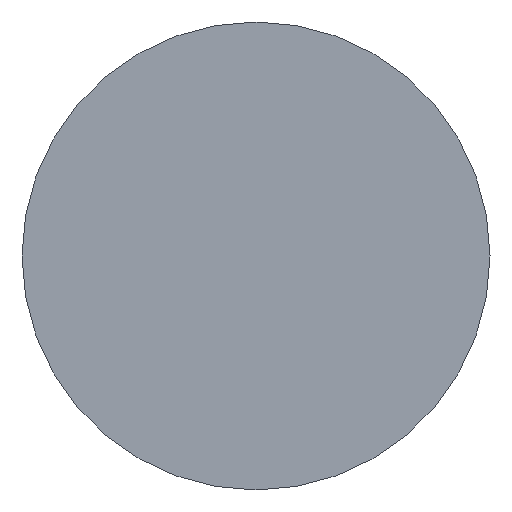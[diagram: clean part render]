
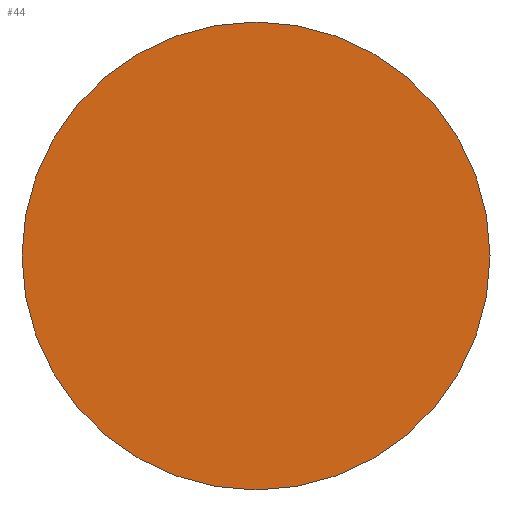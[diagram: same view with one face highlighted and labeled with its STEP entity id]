
A CAD part, top view. The second image highlights one B-rep face of the part: STEP entity #44.
In plain terms, the highlighted planar face has unit normal (0, 0, 1).
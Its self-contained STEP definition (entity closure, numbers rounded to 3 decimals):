
#44=ADVANCED_FACE('',(#94),#95,.T.);
#94=FACE_OUTER_BOUND('',#153,.T.);
#95=PLANE('',#154);
#153=EDGE_LOOP('',(#256));
#154=AXIS2_PLACEMENT_3D('',#257,#258,#259);
#256=ORIENTED_EDGE('',*,*,#327,.F.);
#257=CARTESIAN_POINT('',(-10.5,0.0,0.0));
#258=DIRECTION('',(0.0,0.,1.0));
#259=DIRECTION('',(1.0,0.0,0.0));
#327=EDGE_CURVE('',#360,#360,#361,.T.);
#360=VERTEX_POINT('',#404);
#361=CIRCLE('',#405,21.);
#404=CARTESIAN_POINT('',(0.0,-21.,0.));
#405=AXIS2_PLACEMENT_3D('',#447,#448,#449);
#447=CARTESIAN_POINT('',(0.0,0.0,0.0));
#448=DIRECTION('',(0.0,0.,-1.0));
#449=DIRECTION('',(0.0,-1.0,0.));
